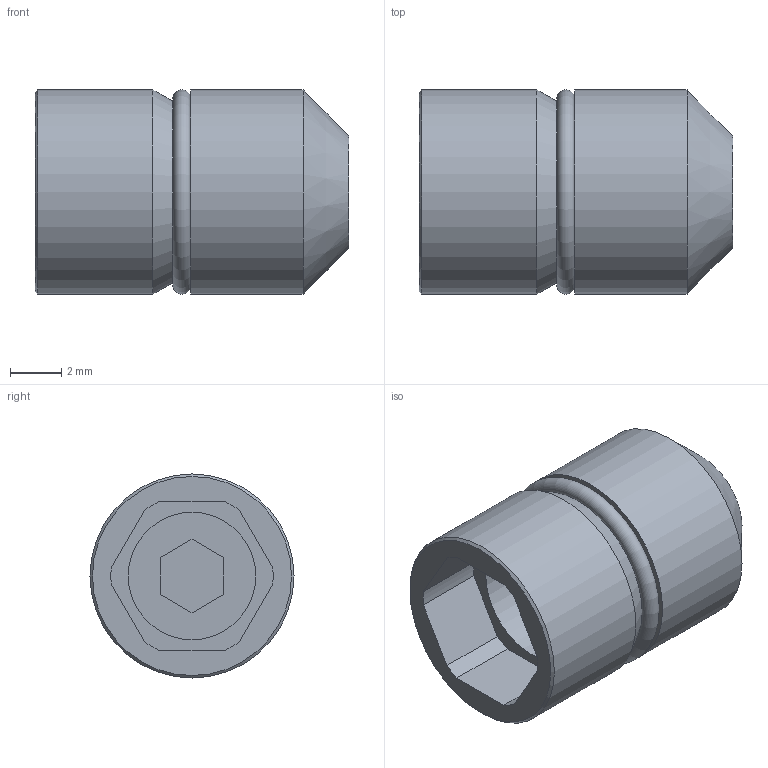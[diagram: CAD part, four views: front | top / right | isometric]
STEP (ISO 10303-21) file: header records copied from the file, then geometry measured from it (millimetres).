
FILE_DESCRIPTION( ( 'STEP AP214' ), '1' );
FILE_NAME( 'p:/temp/worker_238/temp/exporttempdir_5788_955_We4Nz/format_0/TRI-8C.stp', '2021-02-05T19:24:13', ( 'License CC BY-ND 4.0' ), ( 'CADENAS' ), ' ', 'PARTsolutions', ' ' );
FILE_SCHEMA( ( 'AUTOMOTIVE_DESIGN { 1 0 10303 214 1 1 1 1 }' ) );
Length unit declared in the file: millimetre
Products named in the file (1): _TRI-8C
Bounding box: 12.3 x 8 x 8 mm (x, y, z)
Volume: 440.8 mm3; surface area: 521.3 mm2
Topology: 1 solids, 1 shells, 31 faces, 71 edges, 46 vertices
Faces by surface type: plane 18, cylinder 9, cone 3, torus 1
Full cylindrical faces by diameter (mm): 5 x1, 8 x2
Entity records: 1108 total; most frequent: DIRECTION 150, CARTESIAN_POINT 143, ORIENTED_EDGE 128, EDGE_CURVE 64, AXIS2_PLACEMENT_3D 54, VERTEX_POINT 47, EDGE_LOOP 42, LINE 42
